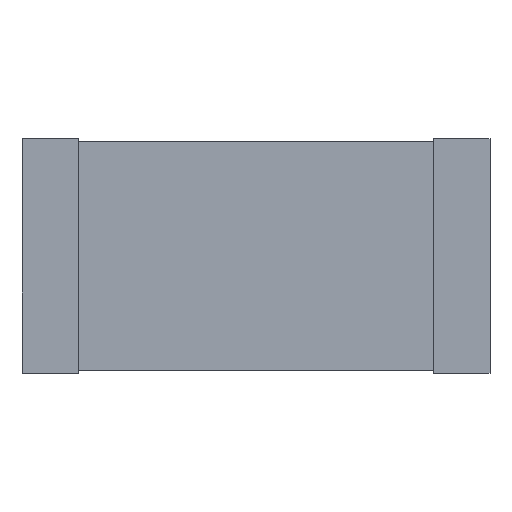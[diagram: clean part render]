
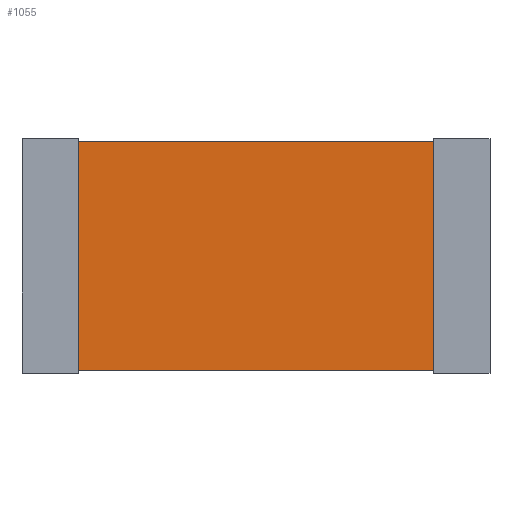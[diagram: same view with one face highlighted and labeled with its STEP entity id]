
A CAD part, top view. The second image highlights one B-rep face of the part: STEP entity #1055.
In plain terms, the highlighted planar face has unit normal (0, 0, 1).
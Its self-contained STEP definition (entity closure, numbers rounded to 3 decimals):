
#741 = VERTEX_POINT('',#742);
#742 = CARTESIAN_POINT('',(0.,0.,0.872));
#749 = PLANE('',#750);
#750 = AXIS2_PLACEMENT_3D('',#751,#752,#753);
#751 = CARTESIAN_POINT('',(0.,0.,0.));
#752 = DIRECTION('',(1.,0.,-0.));
#753 = DIRECTION('',(0.,0.,1.));
#761 = PLANE('',#762);
#762 = AXIS2_PLACEMENT_3D('',#763,#764,#765);
#763 = CARTESIAN_POINT('',(0.,0.,0.));
#764 = DIRECTION('',(-0.,1.,0.));
#765 = DIRECTION('',(0.,0.,1.));
#802 = VERTEX_POINT('',#803);
#803 = CARTESIAN_POINT('',(0.,3.116,0.872));
#817 = PLANE('',#818);
#818 = AXIS2_PLACEMENT_3D('',#819,#820,#821);
#819 = CARTESIAN_POINT('',(0.,3.116,0.));
#820 = DIRECTION('',(-0.,1.,0.));
#821 = DIRECTION('',(0.,0.,1.));
#829 = EDGE_CURVE('',#741,#802,#830,.T.);
#830 = SURFACE_CURVE('',#831,(#835,#842),.PCURVE_S1.);
#831 = LINE('',#832,#833);
#832 = CARTESIAN_POINT('',(0.,0.,0.872));
#833 = VECTOR('',#834,1.);
#834 = DIRECTION('',(-0.,1.,0.));
#835 = PCURVE('',#749,#836);
#836 = DEFINITIONAL_REPRESENTATION('',(#837),#841);
#837 = LINE('',#838,#839);
#838 = CARTESIAN_POINT('',(0.872,0.));
#839 = VECTOR('',#840,1.);
#840 = DIRECTION('',(0.,-1.));
#841 = ( GEOMETRIC_REPRESENTATION_CONTEXT(2) 
PARAMETRIC_REPRESENTATION_CONTEXT() REPRESENTATION_CONTEXT('2D SPACE',''
  ) );
#842 = PCURVE('',#843,#848);
#843 = PLANE('',#844);
#844 = AXIS2_PLACEMENT_3D('',#845,#846,#847);
#845 = CARTESIAN_POINT('',(0.,0.,0.872));
#846 = DIRECTION('',(0.,0.,1.));
#847 = DIRECTION('',(1.,0.,-0.));
#848 = DEFINITIONAL_REPRESENTATION('',(#849),#853);
#849 = LINE('',#850,#851);
#850 = CARTESIAN_POINT('',(0.,0.));
#851 = VECTOR('',#852,1.);
#852 = DIRECTION('',(0.,1.));
#853 = ( GEOMETRIC_REPRESENTATION_CONTEXT(2) 
PARAMETRIC_REPRESENTATION_CONTEXT() REPRESENTATION_CONTEXT('2D SPACE',''
  ) );
#861 = VERTEX_POINT('',#862);
#862 = CARTESIAN_POINT('',(4.83,0.,0.872));
#869 = PLANE('',#870);
#870 = AXIS2_PLACEMENT_3D('',#871,#872,#873);
#871 = CARTESIAN_POINT('',(4.83,0.,0.));
#872 = DIRECTION('',(1.,0.,-0.));
#873 = DIRECTION('',(0.,0.,1.));
#912 = VERTEX_POINT('',#913);
#913 = CARTESIAN_POINT('',(4.83,3.116,0.872));
#934 = EDGE_CURVE('',#861,#912,#935,.T.);
#935 = SURFACE_CURVE('',#936,(#940,#947),.PCURVE_S1.);
#936 = LINE('',#937,#938);
#937 = CARTESIAN_POINT('',(4.83,0.,0.872));
#938 = VECTOR('',#939,1.);
#939 = DIRECTION('',(0.,1.,0.));
#940 = PCURVE('',#869,#941);
#941 = DEFINITIONAL_REPRESENTATION('',(#942),#946);
#942 = LINE('',#943,#944);
#943 = CARTESIAN_POINT('',(0.872,0.));
#944 = VECTOR('',#945,1.);
#945 = DIRECTION('',(0.,-1.));
#946 = ( GEOMETRIC_REPRESENTATION_CONTEXT(2) 
PARAMETRIC_REPRESENTATION_CONTEXT() REPRESENTATION_CONTEXT('2D SPACE',''
  ) );
#947 = PCURVE('',#843,#948);
#948 = DEFINITIONAL_REPRESENTATION('',(#949),#953);
#949 = LINE('',#950,#951);
#950 = CARTESIAN_POINT('',(4.83,0.));
#951 = VECTOR('',#952,1.);
#952 = DIRECTION('',(0.,1.));
#953 = ( GEOMETRIC_REPRESENTATION_CONTEXT(2) 
PARAMETRIC_REPRESENTATION_CONTEXT() REPRESENTATION_CONTEXT('2D SPACE',''
  ) );
#980 = EDGE_CURVE('',#741,#861,#981,.T.);
#981 = SURFACE_CURVE('',#982,(#986,#993),.PCURVE_S1.);
#982 = LINE('',#983,#984);
#983 = CARTESIAN_POINT('',(0.,0.,0.872));
#984 = VECTOR('',#985,1.);
#985 = DIRECTION('',(1.,0.,-0.));
#986 = PCURVE('',#761,#987);
#987 = DEFINITIONAL_REPRESENTATION('',(#988),#992);
#988 = LINE('',#989,#990);
#989 = CARTESIAN_POINT('',(0.872,0.));
#990 = VECTOR('',#991,1.);
#991 = DIRECTION('',(0.,1.));
#992 = ( GEOMETRIC_REPRESENTATION_CONTEXT(2) 
PARAMETRIC_REPRESENTATION_CONTEXT() REPRESENTATION_CONTEXT('2D SPACE',''
  ) );
#993 = PCURVE('',#843,#994);
#994 = DEFINITIONAL_REPRESENTATION('',(#995),#999);
#995 = LINE('',#996,#997);
#996 = CARTESIAN_POINT('',(0.,0.));
#997 = VECTOR('',#998,1.);
#998 = DIRECTION('',(1.,0.));
#999 = ( GEOMETRIC_REPRESENTATION_CONTEXT(2) 
PARAMETRIC_REPRESENTATION_CONTEXT() REPRESENTATION_CONTEXT('2D SPACE',''
  ) );
#1027 = EDGE_CURVE('',#802,#912,#1028,.T.);
#1028 = SURFACE_CURVE('',#1029,(#1033,#1040),.PCURVE_S1.);
#1029 = LINE('',#1030,#1031);
#1030 = CARTESIAN_POINT('',(0.,3.116,0.872));
#1031 = VECTOR('',#1032,1.);
#1032 = DIRECTION('',(1.,0.,-0.));
#1033 = PCURVE('',#817,#1034);
#1034 = DEFINITIONAL_REPRESENTATION('',(#1035),#1039);
#1035 = LINE('',#1036,#1037);
#1036 = CARTESIAN_POINT('',(0.872,0.));
#1037 = VECTOR('',#1038,1.);
#1038 = DIRECTION('',(0.,1.));
#1039 = ( GEOMETRIC_REPRESENTATION_CONTEXT(2) 
PARAMETRIC_REPRESENTATION_CONTEXT() REPRESENTATION_CONTEXT('2D SPACE',''
  ) );
#1040 = PCURVE('',#843,#1041);
#1041 = DEFINITIONAL_REPRESENTATION('',(#1042),#1046);
#1042 = LINE('',#1043,#1044);
#1043 = CARTESIAN_POINT('',(0.,3.116));
#1044 = VECTOR('',#1045,1.);
#1045 = DIRECTION('',(1.,0.));
#1046 = ( GEOMETRIC_REPRESENTATION_CONTEXT(2) 
PARAMETRIC_REPRESENTATION_CONTEXT() REPRESENTATION_CONTEXT('2D SPACE',''
  ) );
#1055 = ADVANCED_FACE('',(#1056),#843,.T.);
#1056 = FACE_BOUND('',#1057,.T.);
#1057 = EDGE_LOOP('',(#1058,#1059,#1060,#1061));
#1058 = ORIENTED_EDGE('',*,*,#829,.F.);
#1059 = ORIENTED_EDGE('',*,*,#980,.T.);
#1060 = ORIENTED_EDGE('',*,*,#934,.T.);
#1061 = ORIENTED_EDGE('',*,*,#1027,.F.);
